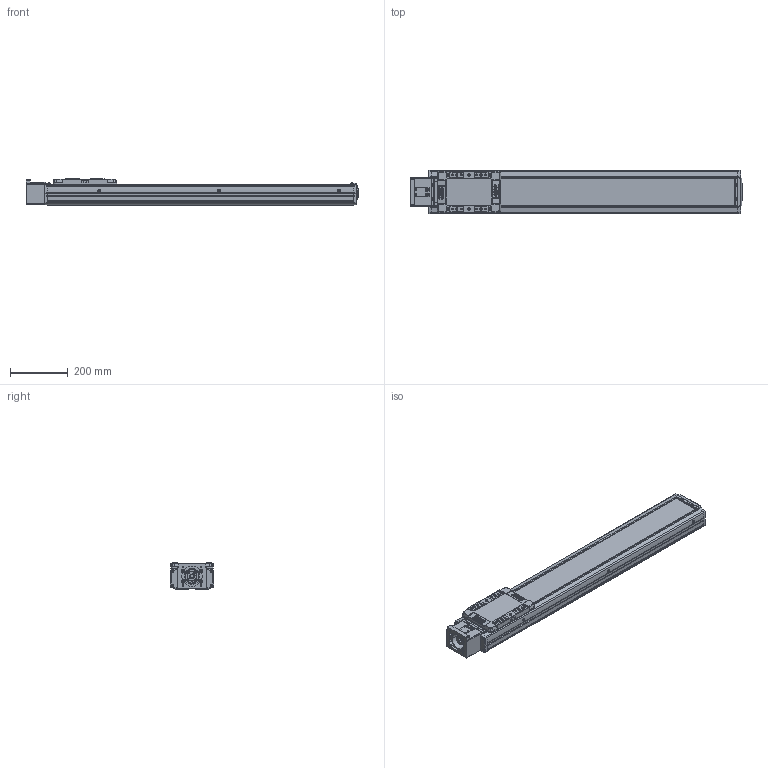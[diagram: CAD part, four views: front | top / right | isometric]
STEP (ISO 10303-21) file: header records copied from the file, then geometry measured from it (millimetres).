
FILE_DESCRIPTION(('STEP AP214'),'1');
FILE_NAME('Z:/Web/3D/SAN150/2013.04 (STP.)/SAN150ㅁㅁ-800S.stp','2013-05-07T11:01:20',(' '),(' '),'Spatial InterOp 3D',' ',' ');
FILE_SCHEMA(('automotive_design'));
Length unit declared in the file: millimetre
Products named in the file (77): SLBL-SAN150; SLCV-SAN150; FHCS M4.0 x 8.0; BHCS M4.0 x 10.0; SFX-SAN150; RRCV-SAN150; FRBL-SAN150; Spacer; RN15; FRCV-SAN150; Screw 20; BASE-SAN150-000L ; SUS COVER; 스크루 : Round - M5.0 x 6.0; BHCS M3.0 x 6.0; SSFX-SAN65; CPLCV-SAN65; SDWA47C(2); SDWA47C(3-1); SDWA47C(3); SDWA47C(1); SDWA47C(4); SDWA47C(5); MTHZ-SAN150-80
Bounding box: 1149 x 150 x 90 mm (x, y, z)
Volume: 6323814.3 mm3; surface area: 1194926.2 mm2
Topology: 77 solids, 77 shells, 2955 faces, 7678 edges, 4944 vertices
Faces by surface type: plane 1234, cylinder 1215, cone 401, sphere 60, bspline 29, torus 16
Entity records: 119500 total; most frequent: CARTESIAN_POINT 19684, DIRECTION 16719, ORIENTED_EDGE 15108, EDGE_CURVE 7554, AXIS2_PLACEMENT_3D 6326, VERTEX_POINT 4944, LINE 4067, VECTOR 4067
